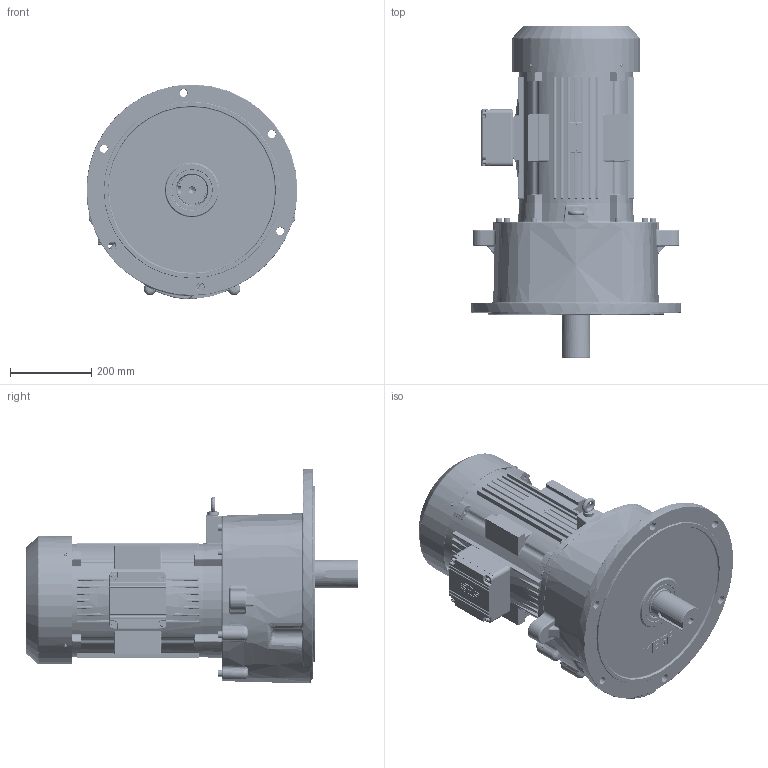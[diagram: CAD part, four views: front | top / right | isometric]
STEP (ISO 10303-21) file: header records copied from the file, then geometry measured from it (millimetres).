
FILE_DESCRIPTION(/* description */ (''),/* implementation_level */ '2;1');
FILE_NAME(/* name */ 'Z:\동력 3D 파일\PMK270_15kW_3D.stp',/* time_stamp */ '2021-12-01T15:59:42+09:00',/* author */ ('jaebok'),/* organization */ (''),/* preprocessor_version */ 'ST-DEVELOPER v18.1',/* originating_system */ 'Autodesk Inventor 2022',/* authorisation */ '');
FILE_SCHEMA (('AUTOMOTIVE_DESIGN { 1 0 10303 214 3 1 1 }'));
Products named in the file (1): 부품35
Bounding box: 519.84 x 818.2 x 529.84 mm (x, y, z)
Volume: 20862220.7 mm3; surface area: 3079000.6 mm2
Topology: 12 solids, 22 shells, 6151 faces, 15601 edges, 9440 vertices
Faces by surface type: plane 1781, cylinder 1775, bspline 1483, torus 553, sphere 336, cone 223
Full cylindrical faces by diameter (mm): 3.242 x4, 4.134 x4, 4.917 x9, 5 x16, 6 x4, 6.5 x8, 6.647 x9, 7 x4, 8 x4, 9.5 x4, 10 x18, 10.106 x2, 12 x9, 13.2 x1, 13.835 x9, 15 x1, 16 x9, 17 x8, 19 x6, 20 x1, 28 x1, 34 x1, 37 x1, 40 x1, 55 x1, 60 x1, 68 x2, 70 x1, 72 x1, 75 x3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
Entity records: 225931 total; most frequent: CARTESIAN_POINT 79291, ORIENTED_EDGE 30700, DIRECTION 27269, EDGE_CURVE 15350, AXIS2_PLACEMENT_3D 10328, VERTEX_POINT 9457, EDGE_LOOP 6699, LINE 6613
